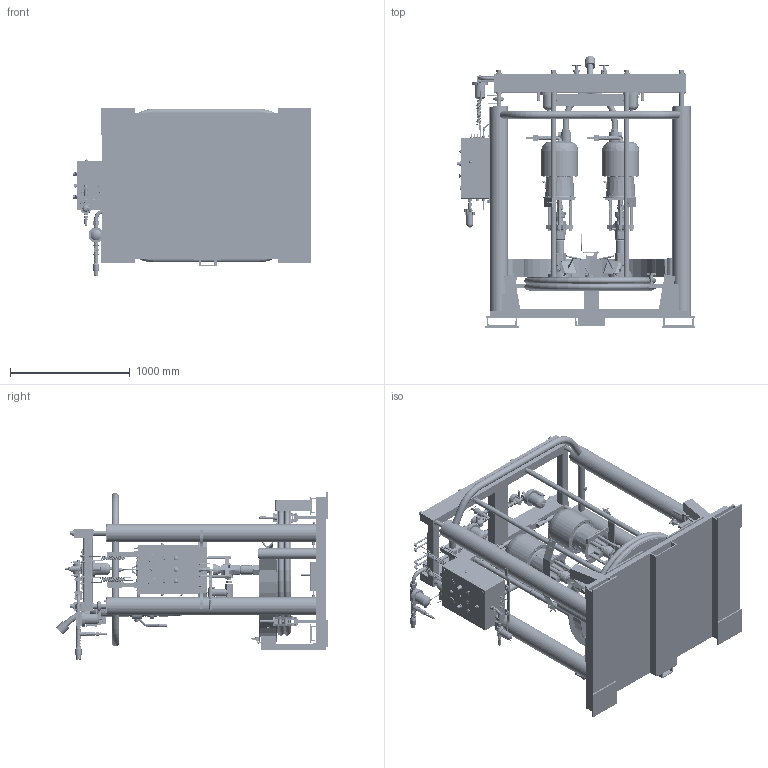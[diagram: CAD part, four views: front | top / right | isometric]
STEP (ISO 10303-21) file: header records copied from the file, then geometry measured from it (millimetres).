
FILE_DESCRIPTION((''),'2;1');
FILE_NAME('C58607-EN-U_PRT','2020-01-01T12:00:51',('qusrh3'),(''),'CREO PARAMETRIC BY PTC INC, 2019030','CREO PARAMETRIC BY PTC INC, 2019030','');
FILE_SCHEMA(('CONFIG_CONTROL_DESIGN'));
Products named in the file (1): C58607-EN-U_PRT
Bounding box: 1989.45 x 2266.23 x 1401.28 mm (x, y, z)
Surface area: 31649354.4 mm2 (no closed solid volume)
Topology: 0 solids, 1340 shells, 8413 faces, 23094 edges, 15364 vertices
Faces by surface type: plane 3738, cylinder 2069, cone 1830, torus 374, bspline 303, sphere 71, extrusion 20, revolution 8
Entity records: 318881 total; most frequent: CARTESIAN_POINT 119409, DIRECTION 40739, ORIENTED_EDGE 37887, EDGE_CURVE 23035, AXIS2_PLACEMENT_3D 15531, VERTEX_POINT 15366, VECTOR 9669, LINE 9649
